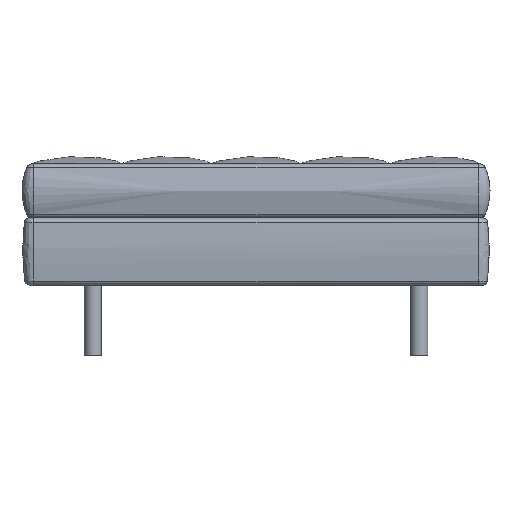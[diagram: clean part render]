
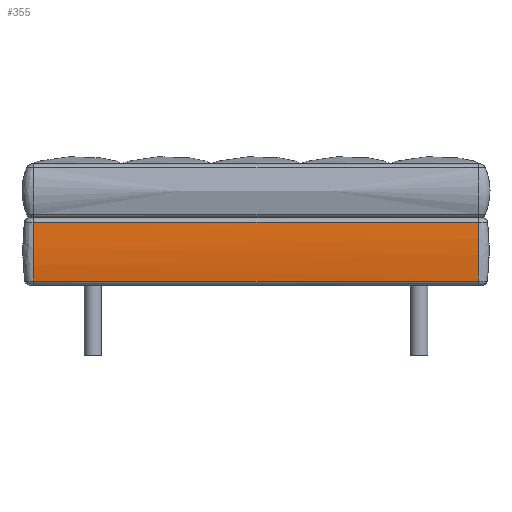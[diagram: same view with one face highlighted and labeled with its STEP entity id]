
A CAD part, left-side view. The second image highlights one B-rep face of the part: STEP entity #355.
In plain terms, the highlighted free-form (B-spline) face has degree [2, 1] with [9, 2] control points.
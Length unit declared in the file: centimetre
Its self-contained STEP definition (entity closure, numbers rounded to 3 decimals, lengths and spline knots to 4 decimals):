
#83=(
BOUNDED_CURVE()
B_SPLINE_CURVE(2,(#10653,#10654,#10655),.UNSPECIFIED.,.F.,.F.)
B_SPLINE_CURVE_WITH_KNOTS((3,3),(0.,12.8492),.UNSPECIFIED.)
CURVE()
GEOMETRIC_REPRESENTATION_ITEM()
RATIONAL_B_SPLINE_CURVE((1.,0.996,1.))
REPRESENTATION_ITEM('')
);
#84=(
BOUNDED_CURVE()
B_SPLINE_CURVE(1,(#10656,#10657),.UNSPECIFIED.,.F.,.F.)
B_SPLINE_CURVE_WITH_KNOTS((2,2),(0.,77.33),.UNSPECIFIED.)
CURVE()
GEOMETRIC_REPRESENTATION_ITEM()
RATIONAL_B_SPLINE_CURVE((1.,1.))
REPRESENTATION_ITEM('')
);
#85=(
BOUNDED_CURVE()
B_SPLINE_CURVE(2,(#10658,#10659,#10660),.UNSPECIFIED.,.F.,.F.)
B_SPLINE_CURVE_WITH_KNOTS((3,3),(0.,12.8492),.UNSPECIFIED.)
CURVE()
GEOMETRIC_REPRESENTATION_ITEM()
RATIONAL_B_SPLINE_CURVE((1.,0.996,1.))
REPRESENTATION_ITEM('')
);
#86=(
BOUNDED_CURVE()
B_SPLINE_CURVE(1,(#10661,#10662),.UNSPECIFIED.,.F.,.F.)
B_SPLINE_CURVE_WITH_KNOTS((2,2),(0.,77.33),.UNSPECIFIED.)
CURVE()
GEOMETRIC_REPRESENTATION_ITEM()
RATIONAL_B_SPLINE_CURVE((1.,1.))
REPRESENTATION_ITEM('')
);
#191=(
BOUNDED_SURFACE()
B_SPLINE_SURFACE(2,1,((#9462,#9463),(#9464,#9465),(#9466,#9467),(#9468,
#9469),(#9470,#9471),(#9472,#9473),(#9474,#9475),(#9476,#9477),(#9478,#9479)),
 .UNSPECIFIED.,.T.,.F.,.F.)
B_SPLINE_SURFACE_WITH_KNOTS((3,2,2,2,3),(2,2),(0.,110.2306,220.4613,
330.6919,440.9225),(0.,92.82),.UNSPECIFIED.)
GEOMETRIC_REPRESENTATION_ITEM()
RATIONAL_B_SPLINE_SURFACE(((1.,1.),(0.707,0.707),
(1.,1.),(0.707,0.707),(1.,1.),(0.707,
0.707),(1.,1.),(0.707,0.707),(1.,1.)))
REPRESENTATION_ITEM('')
SURFACE()
);
#355=ADVANCED_FACE('',(#446),#191,.T.);
#446=FACE_OUTER_BOUND('',#537,.T.);
#537=EDGE_LOOP('',(#788,#789,#790,#791));
#788=ORIENTED_EDGE('',*,*,#1110,.T.);
#789=ORIENTED_EDGE('',*,*,#1111,.T.);
#790=ORIENTED_EDGE('',*,*,#1112,.T.);
#791=ORIENTED_EDGE('',*,*,#1113,.T.);
#1110=EDGE_CURVE('',#1445,#1446,#83,.T.);
#1111=EDGE_CURVE('',#1446,#1447,#84,.T.);
#1112=EDGE_CURVE('',#1447,#1448,#85,.T.);
#1113=EDGE_CURVE('',#1448,#1445,#86,.T.);
#1445=VERTEX_POINT('',#10605);
#1446=VERTEX_POINT('',#10606);
#1447=VERTEX_POINT('',#10607);
#1448=VERTEX_POINT('',#10608);
#9462=CARTESIAN_POINT('',(124.717,95.2895,22.8132));
#9463=CARTESIAN_POINT('',(124.717,-20.6642,22.8132));
#9464=CARTESIAN_POINT('',(124.717,95.2895,92.9882));
#9465=CARTESIAN_POINT('',(124.717,-20.6642,92.9882));
#9466=CARTESIAN_POINT('',(37.0522,95.2895,92.9882));
#9467=CARTESIAN_POINT('',(37.0522,-20.6642,92.9882));
#9468=CARTESIAN_POINT('',(-50.6126,95.2895,92.9882));
#9469=CARTESIAN_POINT('',(-50.6126,-20.6642,92.9882));
#9470=CARTESIAN_POINT('',(-50.6126,95.2895,22.8132));
#9471=CARTESIAN_POINT('',(-50.6126,-20.6642,22.8132));
#9472=CARTESIAN_POINT('',(-50.6126,95.2895,-47.3618));
#9473=CARTESIAN_POINT('',(-50.6126,-20.6642,-47.3618));
#9474=CARTESIAN_POINT('',(37.0522,95.2895,-47.3618));
#9475=CARTESIAN_POINT('',(37.0522,-20.6642,-47.3618));
#9476=CARTESIAN_POINT('',(124.717,95.2895,-47.3618));
#9477=CARTESIAN_POINT('',(124.717,-20.6642,-47.3618));
#9478=CARTESIAN_POINT('',(124.717,95.2895,22.8132));
#9479=CARTESIAN_POINT('',(124.717,-20.6642,22.8132));
#10605=CARTESIAN_POINT('',(-50.2111,-10.9889,16.1044));
#10606=CARTESIAN_POINT('',(-50.2822,-10.9889,28.8999));
#10607=CARTESIAN_POINT('',(-50.2822,85.6142,28.8999));
#10608=CARTESIAN_POINT('',(-50.2111,85.6142,16.1044));
#10653=CARTESIAN_POINT('',(-50.2111,-10.9889,16.1044));
#10654=CARTESIAN_POINT('',(-50.9784,-10.9889,22.4996));
#10655=CARTESIAN_POINT('',(-50.2822,-10.9889,28.8999));
#10656=CARTESIAN_POINT('',(-50.2822,-10.9889,28.8999));
#10657=CARTESIAN_POINT('',(-50.2822,85.6142,28.8999));
#10658=CARTESIAN_POINT('',(-50.2822,85.6142,28.8999));
#10659=CARTESIAN_POINT('',(-50.9784,85.6142,22.4996));
#10660=CARTESIAN_POINT('',(-50.2111,85.6142,16.1044));
#10661=CARTESIAN_POINT('',(-50.2111,85.6142,16.1044));
#10662=CARTESIAN_POINT('',(-50.2111,-10.9889,16.1044));
